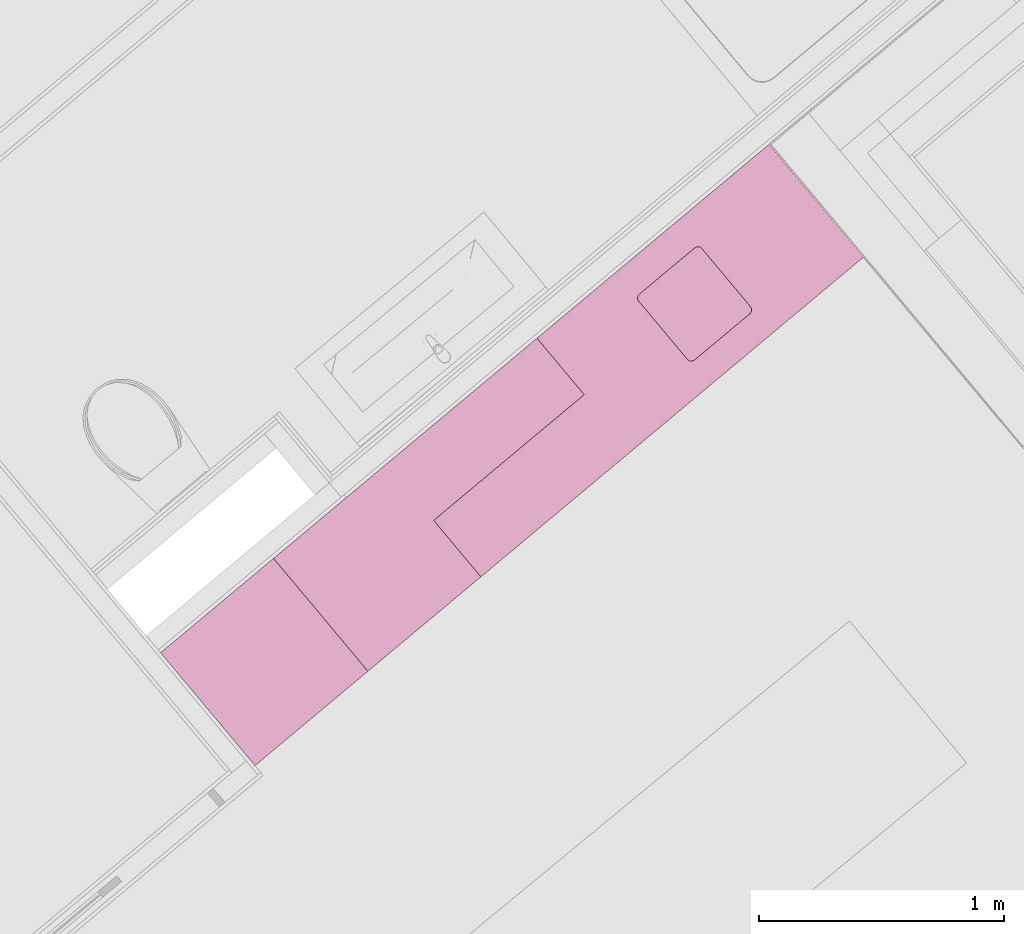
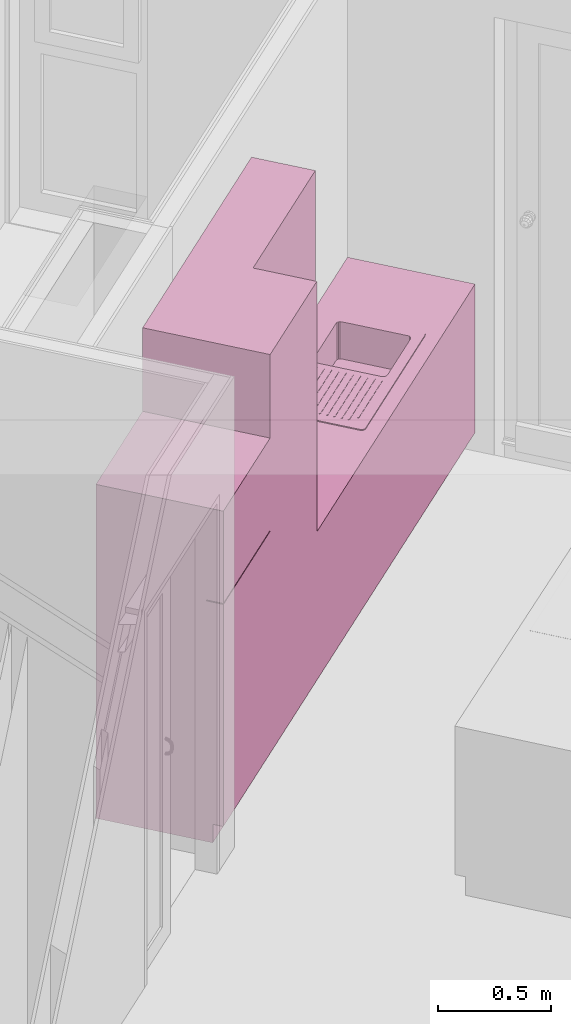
# One storey, part 49 of 50: 1 furniture element.
"""IFC4 building model written with IfcOpenShell, lengths in metres."""

from ifc_helpers import new_model, entity, si_unit, converted_unit, derived_unit, direction, frame, origin_with_axes, place, context, subcontext, project, spatial, polygons, source, transform, mapped, type_object, element, save


model = new_model("IFC4")

# Units and contexts
model_context = context("Model", 3, precision=1e-05, world=origin_with_axes(), true_north=direction((0.0, 1.0)))
body_context = subcontext(model_context, "Body", "Model", "MODEL_VIEW")
ifc_project = project(units=[si_unit("LENGTHUNIT", "METRE"), si_unit("AREAUNIT", "SQUARE_METRE"), si_unit("VOLUMEUNIT", "CUBIC_METRE"), converted_unit("PLANEANGLEUNIT", "DEGREE", entity("IfcPlaneAngleMeasure", 0.0174532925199), si_unit("PLANEANGLEUNIT", "RADIAN"), dimensions=[0, 0, 0, 0, 0, 0, 0]), converted_unit("TIMEUNIT", "Year", entity("IfcTimeMeasure", 31556926.0), si_unit("TIMEUNIT", "SECOND"), dimensions=[0, 0, 1, 0, 0, 0, 0]), si_unit("MASSUNIT", "GRAM", prefix="KILO"), si_unit("THERMODYNAMICTEMPERATUREUNIT", "DEGREE_CELSIUS"), si_unit("LUMINOUSINTENSITYUNIT", "LUMEN"), si_unit("ENERGYUNIT", "JOULE", prefix="MEGA"), derived_unit("THERMALCONDUCTANCEUNIT", [(si_unit("POWERUNIT", "WATT"), 1), (si_unit("LENGTHUNIT", "METRE"), -1), (si_unit("THERMODYNAMICTEMPERATUREUNIT", "KELVIN"), -1)]), derived_unit("SPECIFICHEATCAPACITYUNIT", [(si_unit("ENERGYUNIT", "JOULE"), 1), (si_unit("MASSUNIT", "GRAM", prefix="KILO"), -1), (si_unit("THERMODYNAMICTEMPERATUREUNIT", "KELVIN"), -1)]), derived_unit("MASSDENSITYUNIT", [(si_unit("MASSUNIT", "GRAM", prefix="KILO"), 1), (si_unit("VOLUMEUNIT", "CUBIC_METRE"), -1)])], contexts=[model_context])

# Site, building, storey
site_placement = place(None, frame((-0.00153261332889, -0.00661245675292, 0.0), z_axis=(0.0, 0.0, 1.0), x_axis=(1.0, 0.0, 0.0)))
site = spatial("IfcSite", under=ifc_project, at=site_placement, Name="Site", CompositionType="ELEMENT")
building_placement = place(site_placement, origin_with_axes())
building = spatial("IfcBuilding", under=site, at=building_placement, Name="Building", CompositionType="ELEMENT")
storey_placement = place(building_placement, frame((0.0, 0.0, 2.74), z_axis=(0.0, 0.0, 1.0), x_axis=(1.0, 0.0, 0.0)))
storey = spatial("IfcBuildingStorey", under=building, at=storey_placement, Name="OG1", CompositionType="ELEMENT", Elevation=2.74)

# Furniture
furniture_type = type_object("IfcFurnitureType", Name="Konzeptküche 26", AssemblyPlace="NOTDEFINED", PredefinedType="NOTDEFINED")
shared_shape = source(origin_with_axes(), body_context, "Body", "Tessellation", [
    polygons([(-0.968323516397, 0.0, 0.0), (-0.968323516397, 0.0, 0.1), (-3.0, 0.0, 0.1), (-3.0, 0.0, 0.0), (-0.968323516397, 0.55, 0.0), (-0.968323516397, 0.55, 0.1), (-3.0, 0.55, 0.1), (-3.0, 0.55, 0.0)], [[[1, 2, 3, 4]], [[5, 6, 2, 1]], [[2, 6, 7, 3]], [[4, 3, 7, 8]], [[1, 4, 8, 5]], [[8, 7, 6, 5]]], closed=True),
    polygons([(-0.968323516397, 0.6, 0.85), (-0.968323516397, 0.0, 0.85), (-3.0, 0.0, 0.85), (-3.0, 0.6, 0.85), (-1.79253770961, 0.055, 0.85), (-1.79253770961, 0.505, 0.85), (-2.54253770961, 0.505, 0.85), (-2.54253770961, 0.055, 0.85), (-0.968323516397, 0.6, 0.9), (-0.968323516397, 0.0, 0.9), (-3.0, 0.0, 0.9), (-3.0, 0.6, 0.9), (-1.79253770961, 0.505, 0.9), (-1.79253770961, 0.055, 0.9), (-2.54253770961, 0.505, 0.9), (-2.54253770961, 0.055, 0.9)], [[[1, 2, 3, 4], [5, 6, 7, 8]], [[2, 1, 9, 10]], [[3, 2, 10, 11]], [[4, 3, 11, 12]], [[1, 4, 12, 9]], [[13, 6, 5, 14]], [[15, 7, 6, 13]], [[16, 8, 7, 15]], [[14, 5, 8, 16]], [[11, 10, 9, 12], [14, 16, 15, 13]]], closed=True),
    polygons([(-0.968323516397, 0.6, 0.1), (-0.968323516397, 0.0, 0.1), (-3.0, 0.0, 0.1), (-3.0, 0.6, 0.1), (-1.79253770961, 0.055, 0.1), (-1.79253770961, 0.505, 0.1), (-2.54253770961, 0.505, 0.1), (-2.54253770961, 0.055, 0.1), (-0.968323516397, 0.6, 0.85), (-0.968323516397, 0.0, 0.85), (-3.0, 0.0, 0.85), (-3.0, 0.6, 0.85), (-1.79253770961, 0.505, 0.85), (-1.79253770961, 0.055, 0.85), (-2.54253770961, 0.505, 0.85), (-2.54253770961, 0.055, 0.85)], [[[1, 2, 3, 4], [5, 6, 7, 8]], [[2, 1, 9, 10]], [[3, 2, 10, 11]], [[4, 3, 11, 12]], [[1, 4, 12, 9]], [[13, 6, 5, 14]], [[15, 7, 6, 13]], [[16, 8, 7, 15]], [[14, 5, 8, 16]], [[11, 10, 9, 12], [14, 16, 15, 13]]], closed=True),
    polygons([(-0.968323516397, 0.0, 1.5), (-0.968323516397, 0.0, 2.25), (-1.76753770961, 0.0, 2.25), (-1.76753770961, 0.0, 1.5), (-0.968323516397, 0.3, 1.5), (-0.968323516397, 0.3, 2.25), (-1.76753770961, 0.3, 2.25), (-1.76753770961, 0.3, 1.5)], [[[1, 2, 3, 4]], [[5, 6, 2, 1]], [[2, 6, 7, 3]], [[4, 3, 7, 8]], [[1, 4, 8, 5]], [[8, 7, 6, 5]]], closed=True),
    polygons([(-0.368323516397, 0.52, 0.0), (-0.368323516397, 0.52, 0.1), (-0.368323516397, 0.55, 0.1), (-0.368323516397, 0.55, 0.0), (0.231676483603, 0.52, 0.0), (0.231676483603, 0.52, 0.1), (0.231676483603, 0.55, 0.1), (0.231676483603, 0.55, 0.0)], [[[1, 2, 3, 4]], [[5, 6, 2, 1]], [[2, 6, 7, 3]], [[4, 3, 7, 8]], [[1, 4, 8, 5]], [[8, 7, 6, 5]]], closed=True),
    polygons([(-0.368323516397, 0.52, 0.0), (-0.368323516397, 0.52, 1.8), (0.231676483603, 0.52, 1.8), (0.231676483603, 0.52, 0.0), (-0.368323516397, 0.0, 0.0), (-0.368323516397, 0.0, 1.8), (0.231676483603, 0.0, 1.8), (0.231676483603, 0.0, 0.0)], [[[1, 2, 3, 4]], [[5, 6, 2, 1]], [[2, 6, 7, 3]], [[4, 3, 7, 8]], [[1, 4, 8, 5]], [[8, 7, 6, 5]]], closed=True),
    polygons([(-0.368323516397, 0.5199, 0.1), (-0.368323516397, 0.5199, 1.2975), (-0.368323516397, 0.6, 1.2975), (-0.368323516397, 0.6, 0.1), (0.231676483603, 0.5199, 0.1), (0.231676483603, 0.5199, 1.2975), (0.231676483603, 0.6, 1.2975), (0.231676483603, 0.6, 0.1)], [[[1, 2, 3, 4]], [[5, 6, 2, 1]], [[2, 6, 7, 3]], [[4, 3, 7, 8]], [[1, 4, 8, 5]], [[8, 7, 6, 5]]], closed=True),
    polygons([(-0.368323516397, 0.5199, 1.3025), (-0.368323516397, 0.5199, 1.8), (-0.368323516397, 0.6, 1.8), (-0.368323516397, 0.6, 1.3025), (0.231676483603, 0.5199, 1.3025), (0.231676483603, 0.5199, 1.8), (0.231676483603, 0.6, 1.8), (0.231676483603, 0.6, 1.3025)], [[[1, 2, 3, 4]], [[5, 6, 2, 1]], [[2, 6, 7, 3]], [[4, 3, 7, 8]], [[1, 4, 8, 5]], [[8, 7, 6, 5]]], closed=True),
    polygons([(-2.49753770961, 0.48, 0.705), (-2.49753770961, 0.48, 0.9), (-2.20253770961, 0.48, 0.9), (-2.20253770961, 0.48, 0.705), (-2.50519137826, 0.47847759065, 0.705), (-2.50519137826, 0.47847759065, 0.9), (-2.19488404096, 0.47847759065, 0.9), (-2.19488404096, 0.47847759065, 0.705), (-2.18839557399, 0.474142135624, 0.705), (-2.18406011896, 0.467653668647, 0.705), (-2.18253770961, 0.46, 0.705), (-2.18253770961, 0.15, 0.705), (-2.18406011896, 0.142346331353, 0.705), (-2.18839557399, 0.135857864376, 0.705), (-2.19488404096, 0.13152240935, 0.705), (-2.20253770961, 0.13, 0.705), (-2.49753770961, 0.13, 0.705), (-2.50519137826, 0.13152240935, 0.705), (-2.51167984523, 0.135857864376, 0.705), (-2.51601530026, 0.142346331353, 0.705), (-2.51753770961, 0.15, 0.705), (-2.51753770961, 0.46, 0.705), (-2.51601530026, 0.467653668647, 0.705), (-2.51167984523, 0.474142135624, 0.705), (-2.51167984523, 0.474142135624, 0.9), (-2.18839557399, 0.474142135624, 0.9), (-2.18406011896, 0.467653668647, 0.9), (-2.18253770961, 0.46, 0.9), (-2.18253770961, 0.15, 0.9), (-2.18406011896, 0.142346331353, 0.9), (-2.18839557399, 0.135857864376, 0.9), (-2.19488404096, 0.13152240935, 0.9), (-2.20253770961, 0.13, 0.9), (-2.49753770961, 0.13, 0.9), (-2.50519137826, 0.13152240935, 0.9), (-2.51167984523, 0.135857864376, 0.9), (-2.51601530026, 0.142346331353, 0.9), (-2.51753770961, 0.15, 0.9), (-2.51753770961, 0.46, 0.9), (-2.51601530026, 0.467653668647, 0.9)], [[[1, 2, 3, 4]], [[5, 6, 2, 1]], [[4, 3, 7, 8]], [[1, 4, 8, 9, 10, 11, 12, 13, 14, 15, 16, 17, 18, 19, 20, 21, 22, 23, 24, 5]], [[24, 25, 6, 5]], [[8, 7, 26, 9]], [[9, 26, 27, 10]], [[10, 27, 28, 11]], [[11, 28, 29, 12]], [[12, 29, 30, 13]], [[13, 30, 31, 14]], [[14, 31, 32, 15]], [[15, 32, 33, 16]], [[16, 33, 34, 17]], [[17, 34, 35, 18]], [[18, 35, 36, 19]], [[19, 36, 37, 20]], [[20, 37, 38, 21]], [[21, 38, 39, 22]], [[22, 39, 40, 23]], [[23, 40, 25, 24]]], closed=False),
    polygons([(-2.54753770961, 0.53, 0.9), (-2.54753770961, 0.53, 0.905), (-1.78753770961, 0.53, 0.905), (-1.78753770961, 0.53, 0.9), (-2.55519137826, 0.52847759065, 0.9), (-2.55519137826, 0.52847759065, 0.905), (-2.56167984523, 0.524142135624, 0.905), (-2.56601530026, 0.517653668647, 0.905), (-2.56753770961, 0.51, 0.905), (-2.56753770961, 0.05, 0.905), (-2.56601530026, 0.0423463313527, 0.905), (-2.56167984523, 0.0358578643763, 0.905), (-2.55519137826, 0.0315224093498, 0.905), (-2.54753770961, 0.03, 0.905), (-1.78753770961, 0.03, 0.905), (-1.77988404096, 0.0315224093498, 0.905), (-1.77339557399, 0.0358578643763, 0.905), (-1.76906011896, 0.0423463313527, 0.905), (-1.76753770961, 0.05, 0.905), (-1.76753770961, 0.51, 0.905), (-1.76906011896, 0.517653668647, 0.905), (-1.77339557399, 0.524142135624, 0.905), (-1.77988404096, 0.52847759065, 0.905), (-2.49753770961, 0.48, 0.905), (-2.20253770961, 0.48, 0.905), (-2.19488404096, 0.47847759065, 0.905), (-2.18839557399, 0.474142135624, 0.905), (-2.18406011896, 0.467653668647, 0.905), (-2.18253770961, 0.46, 0.905), (-2.18253770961, 0.15, 0.905), (-2.18406011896, 0.142346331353, 0.905), (-2.18839557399, 0.135857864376, 0.905), (-2.19488404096, 0.13152240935, 0.905), (-2.20253770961, 0.13, 0.905), (-2.49753770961, 0.13, 0.905), (-2.50519137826, 0.13152240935, 0.905), (-2.51167984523, 0.135857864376, 0.905), (-2.51601530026, 0.142346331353, 0.905), (-2.51753770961, 0.15, 0.905), (-2.51753770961, 0.46, 0.905), (-2.51601530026, 0.467653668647, 0.905), (-2.51167984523, 0.474142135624, 0.905), (-2.50519137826, 0.47847759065, 0.905), (-1.77988404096, 0.52847759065, 0.9), (-1.77339557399, 0.524142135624, 0.9), (-1.76906011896, 0.517653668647, 0.9), (-1.76753770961, 0.51, 0.9), (-1.76753770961, 0.05, 0.9), (-1.76906011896, 0.0423463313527, 0.9), (-1.77339557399, 0.0358578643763, 0.9), (-1.77988404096, 0.0315224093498, 0.9), (-1.78753770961, 0.03, 0.9), (-2.54753770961, 0.03, 0.9), (-2.55519137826, 0.0315224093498, 0.9), (-2.56167984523, 0.0358578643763, 0.9), (-2.56601530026, 0.0423463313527, 0.9), (-2.56753770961, 0.05, 0.9), (-2.56753770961, 0.51, 0.9), (-2.56601530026, 0.517653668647, 0.9), (-2.56167984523, 0.524142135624, 0.9), (-2.49753770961, 0.48, 0.9), (-2.50519137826, 0.47847759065, 0.9), (-2.51167984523, 0.474142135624, 0.9), (-2.51601530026, 0.467653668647, 0.9), (-2.51753770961, 0.46, 0.9), (-2.51753770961, 0.15, 0.9), (-2.51601530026, 0.142346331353, 0.9), (-2.51167984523, 0.135857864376, 0.9), (-2.50519137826, 0.13152240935, 0.9), (-2.49753770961, 0.13, 0.9), (-2.20253770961, 0.13, 0.9), (-2.19488404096, 0.13152240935, 0.9), (-2.18839557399, 0.135857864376, 0.9), (-2.18406011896, 0.142346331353, 0.9), (-2.18253770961, 0.15, 0.9), (-2.18253770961, 0.46, 0.9), (-2.18406011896, 0.467653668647, 0.9), (-2.18839557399, 0.474142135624, 0.9), (-2.19488404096, 0.47847759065, 0.9), (-2.20253770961, 0.48, 0.9)], [[[1, 2, 3, 4]], [[5, 6, 2, 1]], [[2, 6, 7, 8, 9, 10, 11, 12, 13, 14, 15, 16, 17, 18, 19, 20, 21, 22, 23, 3], [24, 25, 26, 27, 28, 29, 30, 31, 32, 33, 34, 35, 36, 37, 38, 39, 40, 41, 42, 43]], [[4, 3, 23, 44]], [[1, 4, 44, 45, 46, 47, 48, 49, 50, 51, 52, 53, 54, 55, 56, 57, 58, 59, 60, 5], [61, 62, 63, 64, 65, 66, 67, 68, 69, 70, 71, 72, 73, 74, 75, 76, 77, 78, 79, 80]], [[60, 7, 6, 5]], [[59, 8, 7, 60]], [[58, 9, 8, 59]], [[57, 10, 9, 58]], [[56, 11, 10, 57]], [[55, 12, 11, 56]], [[54, 13, 12, 55]], [[53, 14, 13, 54]], [[52, 15, 14, 53]], [[51, 16, 15, 52]], [[50, 17, 16, 51]], [[49, 18, 17, 50]], [[48, 19, 18, 49]], [[47, 20, 19, 48]], [[46, 21, 20, 47]], [[45, 22, 21, 46]], [[44, 23, 22, 45]], [[80, 25, 24, 61]], [[79, 26, 25, 80]], [[78, 27, 26, 79]], [[77, 28, 27, 78]], [[76, 29, 28, 77]], [[75, 30, 29, 76]], [[74, 31, 30, 75]], [[73, 32, 31, 74]], [[72, 33, 32, 73]], [[71, 34, 33, 72]], [[70, 35, 34, 71]], [[69, 36, 35, 70]], [[68, 37, 36, 69]], [[67, 38, 37, 68]], [[66, 39, 38, 67]], [[65, 40, 39, 66]], [[64, 41, 40, 65]], [[63, 42, 41, 64]], [[62, 43, 42, 63]], [[61, 24, 43, 62]]], closed=True),
    polygons([(-2.15253770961, 0.475, 0.905), (-2.15253770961, 0.475, 0.907), (-1.84753770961, 0.475, 0.907), (-1.84753770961, 0.475, 0.905), (-2.15253770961, 0.47, 0.905), (-2.15253770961, 0.47, 0.907), (-1.84753770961, 0.47, 0.907), (-1.84753770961, 0.47, 0.905)], [[[1, 2, 3, 4]], [[5, 6, 2, 1]], [[2, 6, 7, 3]], [[4, 3, 7, 8]], [[1, 4, 8, 5]], [[8, 7, 6, 5]]], closed=True),
    polygons([(-2.15253770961, 0.441, 0.905), (-2.15253770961, 0.441, 0.907), (-1.81753770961, 0.441, 0.907), (-1.81753770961, 0.441, 0.905), (-2.15253770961, 0.436, 0.905), (-2.15253770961, 0.436, 0.907), (-1.81753770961, 0.436, 0.907), (-1.81753770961, 0.436, 0.905)], [[[1, 2, 3, 4]], [[5, 6, 2, 1]], [[2, 6, 7, 3]], [[4, 3, 7, 8]], [[1, 4, 8, 5]], [[8, 7, 6, 5]]], closed=True),
    polygons([(-2.15253770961, 0.407, 0.905), (-2.15253770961, 0.407, 0.907), (-1.81753770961, 0.407, 0.907), (-1.81753770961, 0.407, 0.905), (-2.15253770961, 0.402, 0.905), (-2.15253770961, 0.402, 0.907), (-1.81753770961, 0.402, 0.907), (-1.81753770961, 0.402, 0.905)], [[[1, 2, 3, 4]], [[5, 6, 2, 1]], [[2, 6, 7, 3]], [[4, 3, 7, 8]], [[1, 4, 8, 5]], [[8, 7, 6, 5]]], closed=True),
    polygons([(-2.15253770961, 0.373, 0.905), (-2.15253770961, 0.373, 0.907), (-1.81753770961, 0.373, 0.907), (-1.81753770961, 0.373, 0.905), (-2.15253770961, 0.368, 0.905), (-2.15253770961, 0.368, 0.907), (-1.81753770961, 0.368, 0.907), (-1.81753770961, 0.368, 0.905)], [[[1, 2, 3, 4]], [[5, 6, 2, 1]], [[2, 6, 7, 3]], [[4, 3, 7, 8]], [[1, 4, 8, 5]], [[8, 7, 6, 5]]], closed=True),
    polygons([(-2.15253770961, 0.339, 0.905), (-2.15253770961, 0.339, 0.907), (-1.81753770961, 0.339, 0.907), (-1.81753770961, 0.339, 0.905), (-2.15253770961, 0.334, 0.905), (-2.15253770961, 0.334, 0.907), (-1.81753770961, 0.334, 0.907), (-1.81753770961, 0.334, 0.905)], [[[1, 2, 3, 4]], [[5, 6, 2, 1]], [[2, 6, 7, 3]], [[4, 3, 7, 8]], [[1, 4, 8, 5]], [[8, 7, 6, 5]]], closed=True),
    polygons([(-2.15253770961, 0.305, 0.905), (-2.15253770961, 0.305, 0.907), (-1.81753770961, 0.305, 0.907), (-1.81753770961, 0.305, 0.905), (-2.15253770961, 0.3, 0.905), (-2.15253770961, 0.3, 0.907), (-1.81753770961, 0.3, 0.907), (-1.81753770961, 0.3, 0.905)], [[[1, 2, 3, 4]], [[5, 6, 2, 1]], [[2, 6, 7, 3]], [[4, 3, 7, 8]], [[1, 4, 8, 5]], [[8, 7, 6, 5]]], closed=True),
    polygons([(-2.15253770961, 0.271, 0.905), (-2.15253770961, 0.271, 0.907), (-1.81753770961, 0.271, 0.907), (-1.81753770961, 0.271, 0.905), (-2.15253770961, 0.266, 0.905), (-2.15253770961, 0.266, 0.907), (-1.81753770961, 0.266, 0.907), (-1.81753770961, 0.266, 0.905)], [[[1, 2, 3, 4]], [[5, 6, 2, 1]], [[2, 6, 7, 3]], [[4, 3, 7, 8]], [[1, 4, 8, 5]], [[8, 7, 6, 5]]], closed=True),
    polygons([(-2.15253770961, 0.237, 0.905), (-2.15253770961, 0.237, 0.907), (-1.81753770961, 0.237, 0.907), (-1.81753770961, 0.237, 0.905), (-2.15253770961, 0.232, 0.905), (-2.15253770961, 0.232, 0.907), (-1.81753770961, 0.232, 0.907), (-1.81753770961, 0.232, 0.905)], [[[1, 2, 3, 4]], [[5, 6, 2, 1]], [[2, 6, 7, 3]], [[4, 3, 7, 8]], [[1, 4, 8, 5]], [[8, 7, 6, 5]]], closed=True),
    polygons([(-2.15253770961, 0.203, 0.905), (-2.15253770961, 0.203, 0.907), (-1.81753770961, 0.203, 0.907), (-1.81753770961, 0.203, 0.905), (-2.15253770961, 0.198, 0.905), (-2.15253770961, 0.198, 0.907), (-1.81753770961, 0.198, 0.907), (-1.81753770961, 0.198, 0.905)], [[[1, 2, 3, 4]], [[5, 6, 2, 1]], [[2, 6, 7, 3]], [[4, 3, 7, 8]], [[1, 4, 8, 5]], [[8, 7, 6, 5]]], closed=True),
    polygons([(-2.15253770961, 0.169, 0.905), (-2.15253770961, 0.169, 0.907), (-1.81753770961, 0.169, 0.907), (-1.81753770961, 0.169, 0.905), (-2.15253770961, 0.164, 0.905), (-2.15253770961, 0.164, 0.907), (-1.81753770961, 0.164, 0.907), (-1.81753770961, 0.164, 0.905)], [[[1, 2, 3, 4]], [[5, 6, 2, 1]], [[2, 6, 7, 3]], [[4, 3, 7, 8]], [[1, 4, 8, 5]], [[8, 7, 6, 5]]], closed=True),
    polygons([(-2.15253770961, 0.135, 0.905), (-2.15253770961, 0.135, 0.907), (-1.84753770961, 0.135, 0.907), (-1.84753770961, 0.135, 0.905), (-2.15253770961, 0.13, 0.905), (-2.15253770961, 0.13, 0.907), (-1.84753770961, 0.13, 0.907), (-1.84753770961, 0.13, 0.905)], [[[1, 2, 3, 4]], [[5, 6, 2, 1]], [[2, 6, 7, 3]], [[4, 3, 7, 8]], [[1, 4, 8, 5]], [[8, 7, 6, 5]]], closed=True),
    polygons([(-0.968323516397, 0.55, 0.0), (-0.968323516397, 0.55, 0.1), (-0.368323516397, 0.55, 0.1), (-0.368323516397, 0.55, 0.0), (-0.968323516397, 0.0, 0.0), (-0.968323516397, 0.0, 0.1), (-0.368323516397, 0.0, 0.1), (-0.368323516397, 0.0, 0.0)], [[[1, 2, 3, 4]], [[5, 6, 2, 1]], [[2, 6, 7, 3]], [[4, 3, 7, 8]], [[1, 4, 8, 5]], [[8, 7, 6, 5]]], closed=True),
    polygons([(-0.968323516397, 0.6, 0.1), (-0.968323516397, 0.6, 2.25), (-0.368323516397, 0.6, 2.25), (-0.368323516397, 0.6, 0.1), (-0.968323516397, 0.0, 0.1), (-0.968323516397, 0.0, 2.25), (-0.368323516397, 0.0, 2.25), (-0.368323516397, 0.0, 0.1)], [[[1, 2, 3, 4]], [[5, 6, 2, 1]], [[2, 6, 7, 3]], [[4, 3, 7, 8]], [[1, 4, 8, 5]], [[8, 7, 6, 5]]], closed=True),
])
furniture_placement = place(storey_placement, frame((6.58657113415, 23.0964081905, 0.22), z_axis=(0.0, 0.0, 1.0), x_axis=(-0.767365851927, -0.641209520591, 0.0)))
element("IfcFurniture", 1, at=furniture_placement, inside=storey, type_object=furniture_type, Name="Objekt-0002", PredefinedType="NOTDEFINED", context=body_context, shape_type="MappedRepresentation", body=[
    mapped(shared_shape, transform((0.0, 0.0, 0.0))),
])

save(model, "model.ifc")
